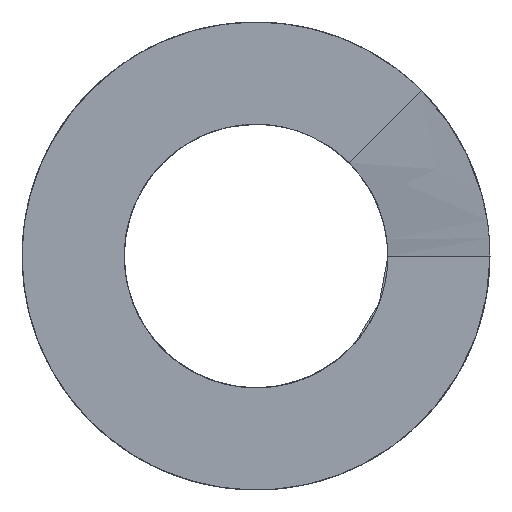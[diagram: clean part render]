
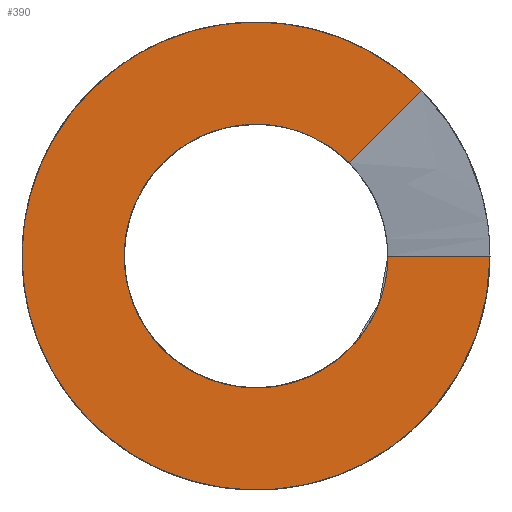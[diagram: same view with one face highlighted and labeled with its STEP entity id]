
A CAD part, front view. The second image highlights one B-rep face of the part: STEP entity #390.
In plain terms, the highlighted planar face has unit normal (0, -1, 0).
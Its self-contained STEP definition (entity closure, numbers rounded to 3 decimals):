
#36=LINE('',#2518,#44);
#44=VECTOR('',#461,10.);
#74=B_SPLINE_CURVE_WITH_KNOTS('',3,(#1913,#1914,#1915,#1916,#1917,#1918,
#1919,#1920,#1921,#1922,#1923,#1924,#1925,#1926,#1927,#1928,#1929,#1930,
#1931,#1932,#1933,#1934,#1935,#1936,#1937,#1938,#1939,#1940,#1941,#1942,
#1943,#1944,#1945,#1946,#1947,#1948,#1949,#1950,#1951,#1952),
 .UNSPECIFIED.,.F.,.F.,(4,2,2,2,2,2,2,2,2,2,2,2,2,2,2,2,2,2,2,4),(-5.98,
-5.599,-5.218,-5.112,-4.728,
-4.384,-4.08,-3.823,-3.637,
-3.559,-3.504,-3.391,-2.967,
-2.543,-2.119,-1.695,-1.272,
-0.848,-0.424,0.),.UNSPECIFIED.);
#83=B_SPLINE_CURVE_WITH_KNOTS('',3,(#2413,#2414,#2415,#2416,#2417,#2418,
#2419,#2420,#2421,#2422,#2423,#2424,#2425,#2426,#2427,#2428,#2429,#2430,
#2431,#2432,#2433,#2434,#2435,#2436,#2437,#2438,#2439,#2440,#2441,#2442,
#2443,#2444,#2445,#2446,#2447,#2448,#2449,#2450,#2451,#2452),
 .UNSPECIFIED.,.F.,.F.,(4,2,2,2,2,2,2,2,2,2,2,2,2,2,2,2,2,2,2,4),(-10.612,
-10.225,-9.838,-9.086,-8.334,
-7.582,-6.83,-6.078,-5.326,
-4.574,-4.442,-4.338,-4.227,
-4.07,-3.318,-2.816,-2.265,
-1.504,-0.752,0.),.UNSPECIFIED.);
#89=B_SPLINE_CURVE_WITH_KNOTS('',3,(#2512,#2513,#2514,#2515,#2516,#2517),
 .UNSPECIFIED.,.F.,.F.,(4,2,4),(-0.84,-0.42,0.),.UNSPECIFIED.);
#114=FACE_OUTER_BOUND('',#140,.T.);
#140=EDGE_LOOP('',(#335,#336,#337,#338));
#171=VERTEX_POINT('',#1629);
#178=VERTEX_POINT('',#1907);
#181=VERTEX_POINT('',#2053);
#186=VERTEX_POINT('',#2412);
#224=EDGE_CURVE('',#178,#171,#74,.T.);
#235=EDGE_CURVE('',#181,#186,#83,.T.);
#242=EDGE_CURVE('',#186,#178,#89,.T.);
#243=EDGE_CURVE('',#171,#181,#36,.T.);
#335=ORIENTED_EDGE('',*,*,#242,.F.);
#336=ORIENTED_EDGE('',*,*,#235,.F.);
#337=ORIENTED_EDGE('',*,*,#243,.F.);
#338=ORIENTED_EDGE('',*,*,#224,.F.);
#372=PLANE('',#429);
#390=ADVANCED_FACE('',(#114),#372,.F.);
#429=AXIS2_PLACEMENT_3D('',#2511,#459,#460);
#459=DIRECTION('center_axis',(0.,1.,0.));
#460=DIRECTION('ref_axis',(0.,0.,1.));
#461=DIRECTION('',(1.,0.,0.));
#1629=CARTESIAN_POINT('',(10.85,0.,0.));
#1907=CARTESIAN_POINT('',(7.672,0.,7.672));
#1913=CARTESIAN_POINT('Ctrl Pts',(7.672,0.,
7.672));
#1914=CARTESIAN_POINT('Ctrl Pts',(6.774,0.,
8.571));
#1915=CARTESIAN_POINT('Ctrl Pts',(5.724,0.,9.304));
#1916=CARTESIAN_POINT('Ctrl Pts',(3.419,0.,10.375));
#1917=CARTESIAN_POINT('Ctrl Pts',(2.182,0.,
10.704));
#1918=CARTESIAN_POINT('Ctrl Pts',(0.565,0.,
10.841));
#1919=CARTESIAN_POINT('Ctrl Pts',(0.213,0.,
10.854));
#1920=CARTESIAN_POINT('Ctrl Pts',(-1.421,0.,
10.833));
#1921=CARTESIAN_POINT('Ctrl Pts',(-2.689,0.,
10.589));
#1922=CARTESIAN_POINT('Ctrl Pts',(-4.955,0.,
9.72));
#1923=CARTESIAN_POINT('Ctrl Pts',(-5.953,0.,
9.143));
#1924=CARTESIAN_POINT('Ctrl Pts',(-7.629,0.,
7.782));
#1925=CARTESIAN_POINT('Ctrl Pts',(-8.322,0.,
7.035));
#1926=CARTESIAN_POINT('Ctrl Pts',(-9.391,0.,
5.501));
#1927=CARTESIAN_POINT('Ctrl Pts',(-9.796,0.,
4.743));
#1928=CARTESIAN_POINT('Ctrl Pts',(-10.333,0.,
3.366));
#1929=CARTESIAN_POINT('Ctrl Pts',(-10.509,0.,
2.768));
#1930=CARTESIAN_POINT('Ctrl Pts',(-10.685,0.,
1.904));
#1931=CARTESIAN_POINT('Ctrl Pts',(-10.727,0.,
1.648));
#1932=CARTESIAN_POINT('Ctrl Pts',(-10.784,0.,
1.209));
#1933=CARTESIAN_POINT('Ctrl Pts',(-10.803,0.,
1.027));
#1934=CARTESIAN_POINT('Ctrl Pts',(-10.846,0.,
0.469));
#1935=CARTESIAN_POINT('Ctrl Pts',(-10.856,0.,0.092));
#1936=CARTESIAN_POINT('Ctrl Pts',(-10.809,0.,-1.697));
#1937=CARTESIAN_POINT('Ctrl Pts',(-10.497,0.,-3.089));
#1938=CARTESIAN_POINT('Ctrl Pts',(-9.356,0.,-5.674));
#1939=CARTESIAN_POINT('Ctrl Pts',(-8.538,0.,-6.842));
#1940=CARTESIAN_POINT('Ctrl Pts',(-6.501,0.,-8.801));
#1941=CARTESIAN_POINT('Ctrl Pts',(-5.301,0.,-9.572));
#1942=CARTESIAN_POINT('Ctrl Pts',(-2.673,0.,-10.61));
#1943=CARTESIAN_POINT('Ctrl Pts',(-1.27,0.,-10.868));
#1944=CARTESIAN_POINT('Ctrl Pts',(1.555,0.,-10.831));
#1945=CARTESIAN_POINT('Ctrl Pts',(2.951,0.,-10.536));
#1946=CARTESIAN_POINT('Ctrl Pts',(5.55,0.,-9.429));
#1947=CARTESIAN_POINT('Ctrl Pts',(6.73,0.,-8.627));
#1948=CARTESIAN_POINT('Ctrl Pts',(8.715,0.,-6.616));
#1949=CARTESIAN_POINT('Ctrl Pts',(9.501,0.,-5.426));
#1950=CARTESIAN_POINT('Ctrl Pts',(10.574,0.,-2.812));
#1951=CARTESIAN_POINT('Ctrl Pts',(10.85,0.,-1.413));
#1952=CARTESIAN_POINT('Ctrl Pts',(10.85,0.,0.));
#2053=CARTESIAN_POINT('',(19.25,0.,0.));
#2412=CARTESIAN_POINT('',(13.612,0.,13.612));
#2413=CARTESIAN_POINT('Ctrl Pts',(19.25,0.,0.));
#2414=CARTESIAN_POINT('Ctrl Pts',(19.25,0.,-1.289));
#2415=CARTESIAN_POINT('Ctrl Pts',(19.12,0.,-2.575));
#2416=CARTESIAN_POINT('Ctrl Pts',(18.606,0.,-5.102));
#2417=CARTESIAN_POINT('Ctrl Pts',(18.223,0.,-6.336));
#2418=CARTESIAN_POINT('Ctrl Pts',(16.739,0.,-9.83));
#2419=CARTESIAN_POINT('Ctrl Pts',(15.318,0.,-11.924));
#2420=CARTESIAN_POINT('Ctrl Pts',(11.754,0.,-15.45));
#2421=CARTESIAN_POINT('Ctrl Pts',(9.644,0.,-16.847));
#2422=CARTESIAN_POINT('Ctrl Pts',(5.009,0.,-18.755));
#2423=CARTESIAN_POINT('Ctrl Pts',(2.526,0.,-19.247));
#2424=CARTESIAN_POINT('Ctrl Pts',(-2.487,0.,-19.253));
#2425=CARTESIAN_POINT('Ctrl Pts',(-4.97,0.,-18.765));
#2426=CARTESIAN_POINT('Ctrl Pts',(-9.61,0.,-16.867));
#2427=CARTESIAN_POINT('Ctrl Pts',(-11.722,0.,-15.474));
#2428=CARTESIAN_POINT('Ctrl Pts',(-15.294,0.,-11.956));
#2429=CARTESIAN_POINT('Ctrl Pts',(-16.719,0.,-9.865));
#2430=CARTESIAN_POINT('Ctrl Pts',(-18.688,0.,-5.254));
#2431=CARTESIAN_POINT('Ctrl Pts',(-19.213,0.,-2.779));
#2432=CARTESIAN_POINT('Ctrl Pts',(-19.254,0.,0.169));
#2433=CARTESIAN_POINT('Ctrl Pts',(-19.245,0.,
0.61));
#2434=CARTESIAN_POINT('Ctrl Pts',(-19.202,0.,
1.396));
#2435=CARTESIAN_POINT('Ctrl Pts',(-19.174,0.,
1.742));
#2436=CARTESIAN_POINT('Ctrl Pts',(-19.097,0.,
2.453));
#2437=CARTESIAN_POINT('Ctrl Pts',(-19.046,0.,
2.818));
#2438=CARTESIAN_POINT('Ctrl Pts',(-18.899,0.,
3.697));
#2439=CARTESIAN_POINT('Ctrl Pts',(-18.791,0.,
4.209));
#2440=CARTESIAN_POINT('Ctrl Pts',(-18.049,0.,
7.147));
#2441=CARTESIAN_POINT('Ctrl Pts',(-16.965,0.,
9.435));
#2442=CARTESIAN_POINT('Ctrl Pts',(-14.478,0.,
12.796));
#2443=CARTESIAN_POINT('Ctrl Pts',(-13.311,0.,
14.007));
#2444=CARTESIAN_POINT('Ctrl Pts',(-10.566,0.,
16.196));
#2445=CARTESIAN_POINT('Ctrl Pts',(-8.973,0.,
17.13));
#2446=CARTESIAN_POINT('Ctrl Pts',(-4.924,0.,
18.782));
#2447=CARTESIAN_POINT('Ctrl Pts',(-2.409,0.,
19.266));
#2448=CARTESIAN_POINT('Ctrl Pts',(2.633,0.,
19.233));
#2449=CARTESIAN_POINT('Ctrl Pts',(5.112,0.,
18.727));
#2450=CARTESIAN_POINT('Ctrl Pts',(9.738,0.,
16.794));
#2451=CARTESIAN_POINT('Ctrl Pts',(11.839,0.,
15.384));
#2452=CARTESIAN_POINT('Ctrl Pts',(13.612,0.,
13.612));
#2511=CARTESIAN_POINT('Origin',(0.,0.,0.));
#2512=CARTESIAN_POINT('Ctrl Pts',(13.612,0.,13.612));
#2513=CARTESIAN_POINT('Ctrl Pts',(12.622,0.,12.622));
#2514=CARTESIAN_POINT('Ctrl Pts',(11.632,0.,
11.632));
#2515=CARTESIAN_POINT('Ctrl Pts',(9.652,0.,
9.652));
#2516=CARTESIAN_POINT('Ctrl Pts',(8.662,0.,
8.662));
#2517=CARTESIAN_POINT('Ctrl Pts',(7.672,0.,
7.672));
#2518=CARTESIAN_POINT('',(7.525,0.,0.));
